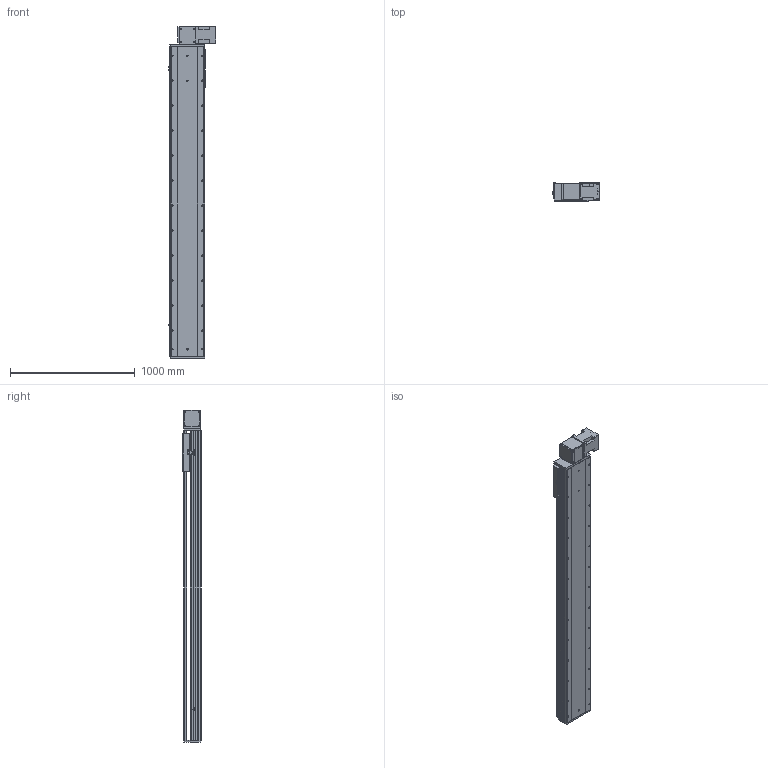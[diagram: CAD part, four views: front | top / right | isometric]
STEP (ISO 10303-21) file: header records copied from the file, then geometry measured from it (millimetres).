
FILE_DESCRIPTION (( 'STEP AP214' ), '1' );
FILE_NAME ('RTB28S-XX-2050-BL-M100-XX-C4.STEP', '2025-12-22T02:28:00', ( '' ), ( '' ), 'SwSTEP 2.0', 'SolidWorks 2018', '' );
FILE_SCHEMA (( 'AUTOMOTIVE_DESIGN' ));
Length unit declared in the file: millimetre
Products named in the file (4): RTB28S-GY-011^RTB28S-XX-XX-BL-M100-XX-C4; RTB28S-GY-008^RTB28S-XX-XX-BL-M100-XX-C4; RTB28S-XX-2050-BL-M100-XX-C4; RTB28S-GY-004^RTB28S-XX-XX-BL-M100-XX-C4
Assembly tree (3 placements, depth 2):
  RTB28S-XX-2050-BL-M100-XX-C4
    RTB28S-GY-011^RTB28S-XX-XX-BL-M100-XX-C4
    RTB28S-GY-004^RTB28S-XX-XX-BL-M100-XX-C4
    RTB28S-GY-008^RTB28S-XX-XX-BL-M100-XX-C4
Bounding box: 380.7 x 145 x 2657 mm (x, y, z)
Volume: 46151329.9 mm3; surface area: 4353177.1 mm2
Topology: 3 solids, 4 shells, 838 faces, 2238 edges, 1428 vertices
Faces by surface type: cylinder 399, plane 355, cone 80, torus 4
Entity records: 31943 total; most frequent: CARTESIAN_POINT 5752, DIRECTION 4752, ORIENTED_EDGE 4412, EDGE_CURVE 2206, AXIS2_PLACEMENT_3D 1736, VERTEX_POINT 1428, LINE 1280, VECTOR 1280
